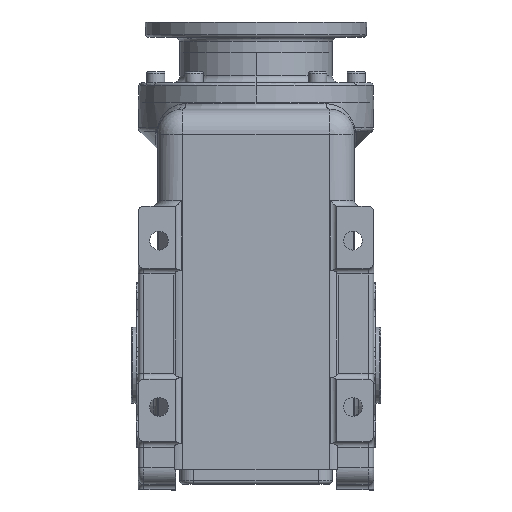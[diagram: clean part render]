
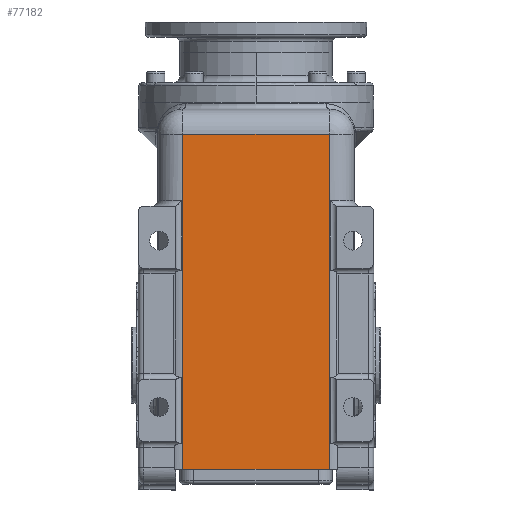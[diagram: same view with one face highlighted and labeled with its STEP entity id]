
A CAD part, front view. The second image highlights one B-rep face of the part: STEP entity #77182.
In plain terms, the highlighted planar face has unit normal (0, -1, 0).
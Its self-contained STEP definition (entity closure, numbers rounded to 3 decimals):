
#1529 = CARTESIAN_POINT ( 'NONE',  ( -53., -137., -75. ) ) ;
#1530 = DIRECTION ( 'NONE',  ( 1., 0., 0. ) ) ;
#1531 = VECTOR ( 'NONE', #1530, 1000. ) ;
#1532 = CARTESIAN_POINT ( 'NONE',  ( -53., -137., -75. ) ) ;
#1533 = LINE ( 'NONE', #1532, #1531 ) ;
#1534 = CARTESIAN_POINT ( 'NONE',  ( 53., -137., -75. ) ) ;
#3341 = CARTESIAN_POINT ( 'NONE',  ( -53., -137., 167. ) ) ;
#3342 = DIRECTION ( 'NONE',  ( 0., 0., -1. ) ) ;
#3343 = VECTOR ( 'NONE', #3342, 1000. ) ;
#3344 = CARTESIAN_POINT ( 'NONE',  ( -53., -137., 185. ) ) ;
#3349 = LINE ( 'NONE', #3344, #3343 ) ;
#4015 = DIRECTION ( 'NONE',  ( -1., 0., 0. ) ) ;
#4016 = DIRECTION ( 'NONE',  ( 0., 1., 0. ) ) ;
#4017 = CARTESIAN_POINT ( 'NONE',  ( -53., -137., 185. ) ) ;
#4018 = AXIS2_PLACEMENT_3D ( 'NONE', #4017, #4016, #4015 ) ;
#4019 = PLANE ( 'NONE',  #4018 ) ;
#4020 = FACE_OUTER_BOUND ( 'NONE', #77185, .T. ) ;
#4078 = DIRECTION ( 'NONE',  ( 0., 0., -1. ) ) ;
#4079 = VECTOR ( 'NONE', #4078, 1000. ) ;
#4080 = CARTESIAN_POINT ( 'NONE',  ( 53., -137., 185. ) ) ;
#4081 = LINE ( 'NONE', #4080, #4079 ) ;
#4201 = DIRECTION ( 'NONE',  ( -1., 0., 0. ) ) ;
#4202 = VECTOR ( 'NONE', #4201, 1000. ) ;
#4203 = CARTESIAN_POINT ( 'NONE',  ( -53., -137., 167. ) ) ;
#4204 = LINE ( 'NONE', #4203, #4202 ) ;
#4210 = CARTESIAN_POINT ( 'NONE',  ( 53., -137., 167. ) ) ;
#75389 = VERTEX_POINT ( 'NONE', #1534 ) ;
#75391 = EDGE_CURVE ( 'NONE', #75392, #75389, #1533, .T. ) ;
#75392 = VERTEX_POINT ( 'NONE', #1529 ) ;
#76932 = EDGE_CURVE ( 'NONE', #76934, #75392, #3349, .T. ) ;
#76934 = VERTEX_POINT ( 'NONE', #3341 ) ;
#77182 = ADVANCED_FACE ( 'NONE', ( #4020 ), #4019, .F. ) ;
#77185 = EDGE_LOOP ( 'NONE', ( #77187, #77317, #77320, #77322 ) ) ;
#77187 = ORIENTED_EDGE ( 'NONE', *, *, #77189, .F. ) ;
#77189 = EDGE_CURVE ( 'NONE', #77315, #75389, #4081, .T. ) ;
#77315 = VERTEX_POINT ( 'NONE', #4210 ) ;
#77317 = ORIENTED_EDGE ( 'NONE', *, *, #77319, .T. ) ;
#77319 = EDGE_CURVE ( 'NONE', #77315, #76934, #4204, .T. ) ;
#77320 = ORIENTED_EDGE ( 'NONE', *, *, #76932, .T. ) ;
#77322 = ORIENTED_EDGE ( 'NONE', *, *, #75391, .T. ) ;
